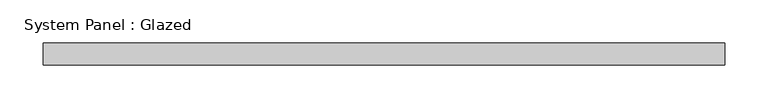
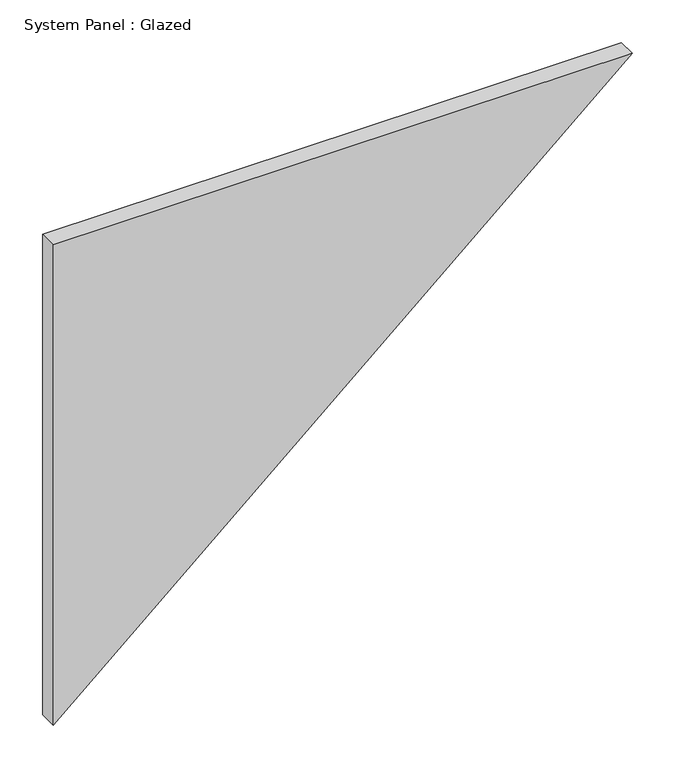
"""IFC4 building model written with IfcOpenShell, lengths in millimetres: plate geometry, System Panel : Glazed."""

import ifcopenshell
import ifcopenshell.guid

model = None  # the IFC model being written
_history = None  # IfcOwnerHistory: only IFC2X3 demands one
_inside = {}  # id of a spatial element -> (the spatial element, [elements in it])
_under = {}  # id of a project, library or spatial element -> (it, [spatial elements below it])
_declared = {}  # id of a project -> (the project, [libraries it declares])
_typed = {}  # id of a type object -> (the type object, [elements of that type])
_made_of = {}  # id of a material, layer set ... -> (it, [elements and type objects made of it])


def new_model(schema):
    """Start an empty IFC model of exactly this schema.

    Asked for "IFC4X3", IfcOpenShell would pick the latest addendum, in which some entities
    have other attributes; the version numbers below select the first issue.
    IFC2X3 requires an IfcOwnerHistory on every rooted entity: one is made here for all.
    """
    global model, _history
    if schema == "IFC4X3":
        model = ifcopenshell.file(schema_version=(4, 3, 0, 0))
    else:
        model = ifcopenshell.file(schema=schema)
    _inside.clear()
    _under.clear()
    _declared.clear()
    _typed.clear()
    _made_of.clear()
    _history = None
    if model.schema == "IFC2X3":
        org = make("IfcOrganization", Name="unknown")
        user = make(
            "IfcPersonAndOrganization",
            ThePerson=make("IfcPerson", FamilyName="unknown"),
            TheOrganization=org,
        )
        app = make(
            "IfcApplication",
            ApplicationDeveloper=org,
            Version="unknown",
            ApplicationFullName="unknown",
            ApplicationIdentifier="unknown",
        )
        _history = make(
            "IfcOwnerHistory",
            OwningUser=user,
            OwningApplication=app,
            ChangeAction="ADDED",
            CreationDate=0,
        )
    return model


def make(cls, **values):
    """One entity of the class cls with the attributes given. An attribute that is None is left unset."""
    return model.create_entity(
        cls, **{name: value for name, value in values.items() if value is not None}
    )


def rooted(cls, **values):
    """An entity with a GlobalId (a new one), such as an element, a storey or a relation."""
    return make(cls, GlobalId=ifcopenshell.guid.new(), OwnerHistory=_history, **values)


def si_unit(unit_type, name, prefix=None):
    """IfcSIUnit, for example si_unit("LENGTHUNIT", "METRE", prefix="MILLI")."""
    return make("IfcSIUnit", UnitType=unit_type, Prefix=prefix, Name=name)


def assignment(units):
    """IfcUnitAssignment: the units of a project."""
    return None if units is None else make("IfcUnitAssignment", Units=units)


def point(xyz):
    """IfcCartesianPoint."""
    return None if xyz is None else make("IfcCartesianPoint", Coordinates=xyz)


def direction(xyz):
    """IfcDirection."""
    return None if xyz is None else make("IfcDirection", DirectionRatios=xyz)


def frame(location, z_axis=None, x_axis=None):
    """IfcAxis2Placement3D, a coordinate frame: its origin and axes. An axis left out is left unset."""
    return make(
        "IfcAxis2Placement3D",
        Location=point(location),
        Axis=direction(z_axis),
        RefDirection=direction(x_axis),
    )


def origin():
    """The frame at (0, 0, 0) with its axes left unset."""
    return frame((0.0, 0.0, 0.0))


def place(relative_to, where):
    """IfcLocalPlacement: puts the frame where relative to a parent placement (None: the world)."""
    return make(
        "IfcLocalPlacement", PlacementRelTo=relative_to, RelativePlacement=where
    )


def context(
    kind, dimensions, precision=None, world=None, true_north=None, identifier=None
):
    """IfcGeometricRepresentationContext, for example the 3D "Model" context."""
    return make(
        "IfcGeometricRepresentationContext",
        ContextIdentifier=identifier,
        ContextType=kind,
        CoordinateSpaceDimension=dimensions,
        Precision=precision,
        WorldCoordinateSystem=world,
        TrueNorth=true_north,
    )


def project(units=None, contexts=None):
    """IfcProject with its units and contexts."""
    return rooted(
        "IfcProject",
        Name="project",
        RepresentationContexts=contexts,
        UnitsInContext=assignment(units),
    )


def spatial(cls, under=None, at=None, **own):
    """A site, building, storey or space (cls), placed at a placement, below another one or the project."""
    s = rooted(cls, ObjectPlacement=at, **own)
    if under is not None:
        _under.setdefault(under.id(), (under, []))[1].append(s)
    return s


def polyline(points):
    """IfcPolyline through the points."""
    return make("IfcPolyline", Points=[point(p) for p in points])


def outline(outer, holes=None, kind="AREA"):
    """IfcArbitraryClosedProfileDef: a profile drawn as a closed curve; with holes, ...WithVoids."""
    if holes is None:
        return make("IfcArbitraryClosedProfileDef", ProfileType=kind, OuterCurve=outer)
    return make(
        "IfcArbitraryProfileDefWithVoids",
        ProfileType=kind,
        OuterCurve=outer,
        InnerCurves=holes,
    )


def extrude(swept, where, along, depth):
    """IfcExtrudedAreaSolid: the profile swept, set in the frame where, extruded along a direction by depth."""
    return make(
        "IfcExtrudedAreaSolid",
        SweptArea=swept,
        Position=where,
        ExtrudedDirection=direction(along),
        Depth=depth,
    )


def shape(context_of_items, identifier, shape_type, items):
    """IfcShapeRepresentation: the items that make up one representation, for example the "Body"."""
    return make(
        "IfcShapeRepresentation",
        ContextOfItems=context_of_items,
        RepresentationIdentifier=identifier,
        RepresentationType=shape_type,
        Items=items,
    )


def source(mapping_origin, context_of_items, identifier, shape_type, items):
    """IfcRepresentationMap: a shape defined once, which mapped items show again and again."""
    return make(
        "IfcRepresentationMap",
        MappingOrigin=mapping_origin,
        MappedRepresentation=shape(context_of_items, identifier, shape_type, items),
    )


def transform(
    local_origin,
    x_axis=None,
    y_axis=None,
    z_axis=None,
    scale=None,
    scale2=None,
    scale3=None,
    uniform=True,
):
    """IfcCartesianTransformationOperator3D, or its non-uniform kind. x_axis, y_axis, z_axis: its Axis1, 2, 3."""
    if uniform:
        return make(
            "IfcCartesianTransformationOperator3D",
            Axis1=direction(x_axis),
            Axis2=direction(y_axis),
            LocalOrigin=point(local_origin),
            Scale=scale,
            Axis3=direction(z_axis),
        )
    return make(
        "IfcCartesianTransformationOperator3DnonUniform",
        Axis1=direction(x_axis),
        Axis2=direction(y_axis),
        LocalOrigin=point(local_origin),
        Scale=scale,
        Axis3=direction(z_axis),
        Scale2=scale2,
        Scale3=scale3,
    )


def mapped(mapping_source, mapping_target):
    """IfcMappedItem: shows the shape of a source again, moved by a transform."""
    return make(
        "IfcMappedItem", MappingSource=mapping_source, MappingTarget=mapping_target
    )


def made_of(thing, what):
    """Note that an element or type object is made of a material, layer set ...; save() writes the relation."""
    if what is not None:
        _made_of.setdefault(what.id(), (what, []))[1].append(thing)
    return thing


def element(
    cls,
    number,
    at=None,
    inside=None,
    cuts=None,
    type_object=None,
    material=None,
    context=None,
    identifier="Body",
    shape_type=None,
    held_by="IfcProductDefinitionShape",
    body=None,
    shapes=None,
    **own,
):
    """One element of the class cls, such as IfcWall. Its Tag is "e" and its number.

    at: its placement. inside: the storey or other place that contains it. cuts: it is an
    opening in that element (IfcRelVoidsElement). A single representation is given by context,
    identifier, shape_type and body (its items); several are given by shapes. held_by: the class
    of the entity that holds the representations. save() writes the other relations.
    """
    e = rooted(cls, Tag="e%d" % number, ObjectPlacement=at, **own)
    if body is not None:
        shapes = [shape(context, identifier, shape_type, body)]
    if shapes is not None:
        e.Representation = make(held_by, Representations=shapes)
    if inside is not None:
        _inside.setdefault(inside.id(), (inside, []))[1].append(e)
    if cuts is not None:
        rooted(
            "IfcRelVoidsElement", RelatingBuildingElement=cuts, RelatedOpeningElement=e
        )
    if type_object is not None:
        _typed.setdefault(type_object.id(), (type_object, []))[1].append(e)
    return made_of(e, material)


def aggregate(whole, parts):
    """IfcRelAggregates: a whole, such as a stair, and the parts it consists of."""
    return rooted("IfcRelAggregates", RelatingObject=whole, RelatedObjects=parts)


def save(model, path):
    """Write the relations noted so far, then the file.

    IfcRelAggregates (storeys below a building ...), IfcRelContainedInSpatialStructure (elements
    in a storey), IfcRelDefinesByType, IfcRelAssociatesMaterial and IfcRelDeclares: one each for
    every whole, place, type object, material and project.
    """
    for whole, parts in _under.values():
        aggregate(whole, parts)
    for where, things in _inside.values():
        rooted(
            "IfcRelContainedInSpatialStructure",
            RelatedElements=things,
            RelatingStructure=where,
        )
    for kind, things in _typed.values():
        rooted("IfcRelDefinesByType", RelatedObjects=things, RelatingType=kind)
    for what, things in _made_of.values():
        rooted("IfcRelAssociatesMaterial", RelatedObjects=things, RelatingMaterial=what)
    for by, libraries in _declared.values():
        rooted("IfcRelDeclares", RelatingContext=by, RelatedDefinitions=libraries)
    model.write(path)


def system_panel_glazed_96251607(model_context):
    return source(origin(), model_context, "Body", "SweptSolid", [
        extrude(outline(polyline([(689.1726565, -393.0235986), (0.0, -393.0235986), (689.1726565, 393.0235986), (689.1726565, -393.0235986)])), frame((0.0, 24.5, 0.0), z_axis=(0.0, 1.0, 0.0), x_axis=(0.0, 0.0, 1.0)), (0.0, 0.0, 1.0), 25.0),
    ])


if __name__ == "__main__":
    model = new_model("IFC4")
    model_context = context("Model", 3, world=origin())
    ifc_project = project(units=[si_unit("LENGTHUNIT", "METRE", prefix="MILLI")], contexts=[model_context])
    site = spatial("IfcSite", under=ifc_project)
    building = spatial("IfcBuilding", under=site)
    placement = place(None, origin())
    system_panel_glazed_shape = system_panel_glazed_96251607(model_context)
    element("IfcPlate", 1, ObjectType="System Panel : Glazed", at=placement, inside=building, context=model_context, shape_type="MappedRepresentation", body=[
        mapped(system_panel_glazed_shape, transform((0.0, 0.0, 0.0), x_axis=(1.0, 0.0, 0.0), y_axis=(0.0, 1.0, 0.0), z_axis=(0.0, 0.0, 1.0))),
    ])
    save(model, "model.ifc")
